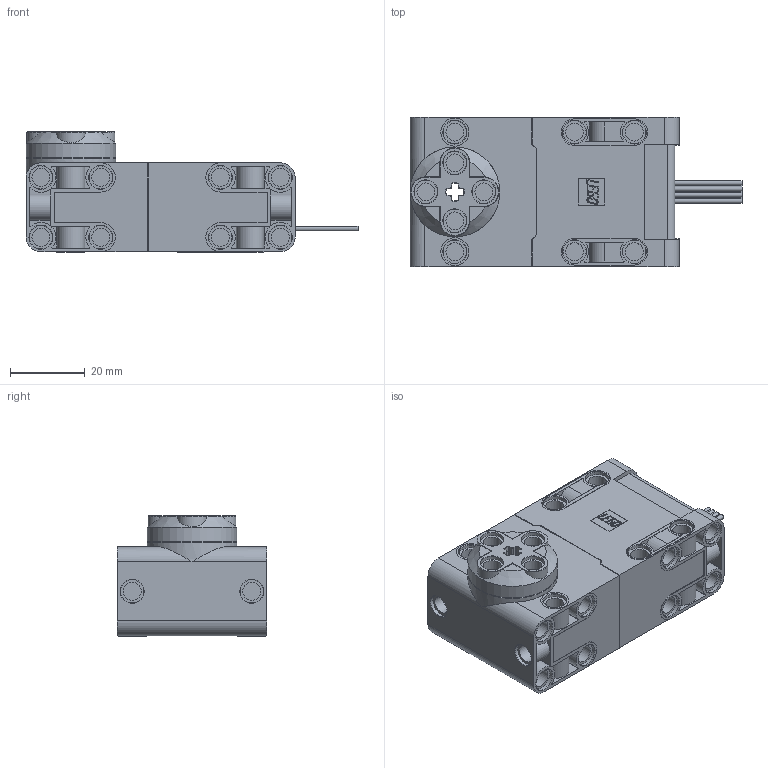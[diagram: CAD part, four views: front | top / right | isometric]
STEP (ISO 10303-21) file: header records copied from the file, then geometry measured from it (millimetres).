
FILE_DESCRIPTION(/* description */ ('Unknown'),/* implementation_level */ '2;1');
FILE_NAME(/* name */ 'Motor Large Angular',/* time_stamp */ '2023-10-09T19:23:01+02:00',/* author */ ('Unknown'),/* organization */ ('Unknown'),/* preprocessor_version */ 'ST-DEVELOPER v18.104',/* originating_system */ 'Solid Edge',/* authorisation */ 'Unknown');
FILE_SCHEMA (('AUTOMOTIVE_DESIGN {1 0 10303 214 3 1 1}'));
Length unit declared in the file: millimetre
Products named in the file (1): Motor Large Angular
Bounding box: 88.8 x 40 x 32.2 mm (x, y, z)
Volume: 62586.4 mm3; surface area: 19513.5 mm2
Topology: 1 solids, 1 shells, 666 faces, 1583 edges, 1033 vertices
Faces by surface type: plane 305, cylinder 274, torus 72, bspline 14, cone 1
Full cylindrical faces by diameter (mm): 4.8 x40, 6.2 x36, 7 x1, 7.5 x5, 10 x1, 24 x2
Entity records: 23785 total; most frequent: CARTESIAN_POINT 4013, DIRECTION 3244, ORIENTED_EDGE 2860, EDGE_CURVE 1430, AXIS2_PLACEMENT_3D 1291, VERTEX_POINT 1004, EDGE_LOOP 914, FACE_BOUND 914
